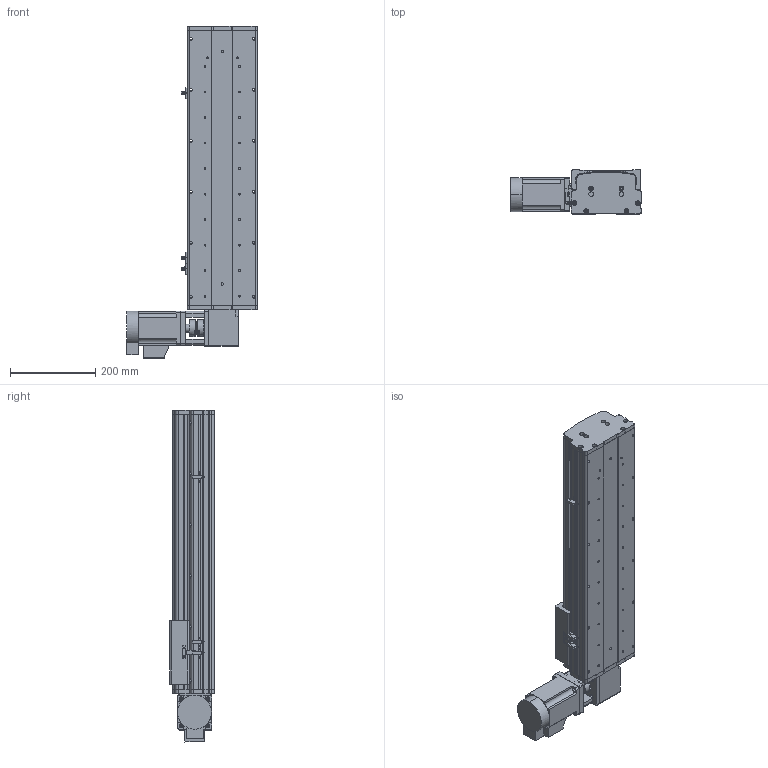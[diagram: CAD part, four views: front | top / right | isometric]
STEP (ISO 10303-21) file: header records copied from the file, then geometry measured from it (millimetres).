
FILE_DESCRIPTION (( 'STEP AP214' ), '1' );
FILE_NAME ('KSD165B-S400-MRT-CM .STEP', '2017-10-17T01:08:00', ( '微软用户' ), ( '微软中国' ), 'SwSTEP 2.0', 'SolidWorks 2014', '' );
FILE_SCHEMA (( 'AUTOMOTIVE_DESIGN' ));
Length unit declared in the file: millimetre
Products named in the file (16): KSD165模组-同步带防尘盖1-400行程-最新版; KSD165模组同步带底板-400行程-最新; 拸秶雄ん750W侜督萇儂; 165宽安装板同步带带电机座750W; C39ㄜ1419WP; U倰嫖萇假蚾璃; U倰嫖萇EEㄜSX672; 覜茼え68遵圉猾敕; KSD165模组-同步带-防撞垫2; KSD165模组同步带-防撞垫1; KSD165耀郪-ヶ傷啣1-肮祭湍; KSD165模组-后端板1-同步带; 130宽马达安装板1-带电机座750W（1）; KSD165模组-同步带滑动座-最新版; KSD165B-S400-MRT-CM ; 165宽马达安装板同步带左-改
Assembly tree (19 placements, depth 2):
  KSD165B-S400-MRT-CM 
    KSD165模组-同步带滑动座-最新版
    130宽马达安装板1-带电机座750W（1）
    KSD165模组-后端板1-同步带
    KSD165耀郪-ヶ傷啣1-肮祭湍
    KSD165模组同步带-防撞垫1
    KSD165模组-同步带-防撞垫2
    覜茼え68遵圉猾敕
    U倰嫖萇EEㄜSX672  x3
    U倰嫖萇假蚾璃  x3
    C39ㄜ1419WP
    165宽安装板同步带带电机座750W
    拸秶雄ん750W侜督萇儂
    KSD165模组同步带底板-400行程-最新
    KSD165模组-同步带防尘盖1-400行程-最新版
    165宽马达安装板同步带左-改
Bounding box: 307.5 x 104 x 781.06 mm (x, y, z)
Volume: 5177504.8 mm3; surface area: 1144633.1 mm2
Topology: 20 solids, 21 shells, 1428 faces, 3954 edges, 2557 vertices
Faces by surface type: cylinder 761, plane 573, cone 94
Entity records: 44715 total; most frequent: CARTESIAN_POINT 9379, DIRECTION 6984, ORIENTED_EDGE 6560, EDGE_CURVE 3280, AXIS2_PLACEMENT_3D 2642, VERTEX_POINT 2149, LINE 1700, VECTOR 1700
